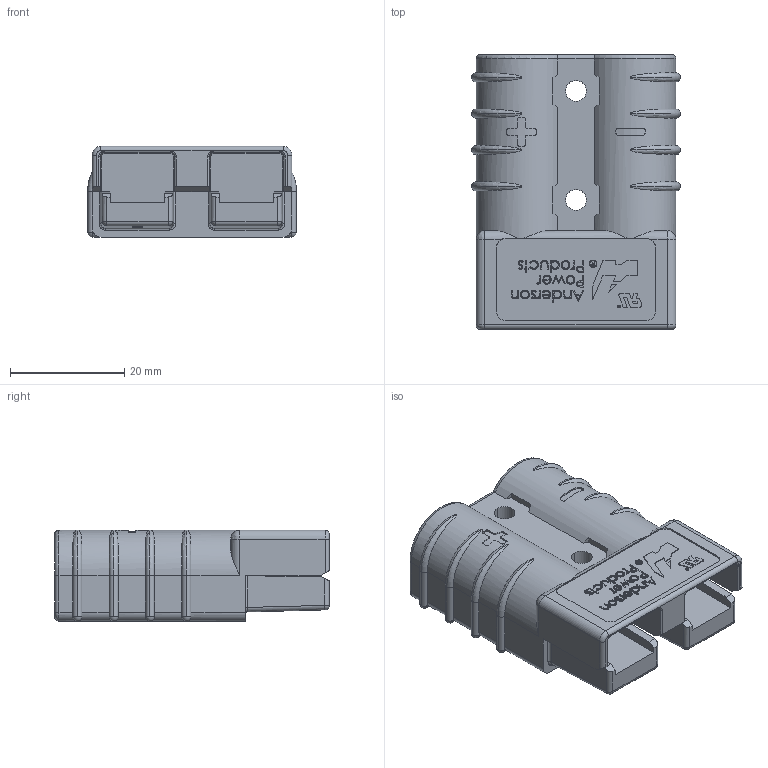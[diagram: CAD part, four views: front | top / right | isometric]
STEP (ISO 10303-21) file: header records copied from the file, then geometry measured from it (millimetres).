
FILE_DESCRIPTION (( 'STEP AP214' ), '1' );
FILE_NAME ('Battery_Connector-SB50.step', '2025-12-23T15:52:08', ( '' ), ( '' ), 'SwSTEP 2.0', 'SolidWorks 2026', '' );
FILE_SCHEMA (( 'AUTOMOTIVE_DESIGN' ));
Length unit declared in the file: inch
Products named in the file (1): Battery_Connector-SB50
Bounding box: 36.51 x 48.02 x 16.03 mm (x, y, z)
Volume: 19133.5 mm3; surface area: 7779.8 mm2
Topology: 1 solids, 1 shells, 1705 faces, 4523 edges, 2972 vertices
Faces by surface type: plane 985, bspline 495, cylinder 171, torus 50, sphere 4
Entity records: 81975 total; most frequent: CARTESIAN_POINT 43013, ORIENTED_EDGE 9034, DIRECTION 6185, EDGE_CURVE 4517, VECTOR 3035, LINE 3035, VERTEX_POINT 2972, EDGE_LOOP 1867
